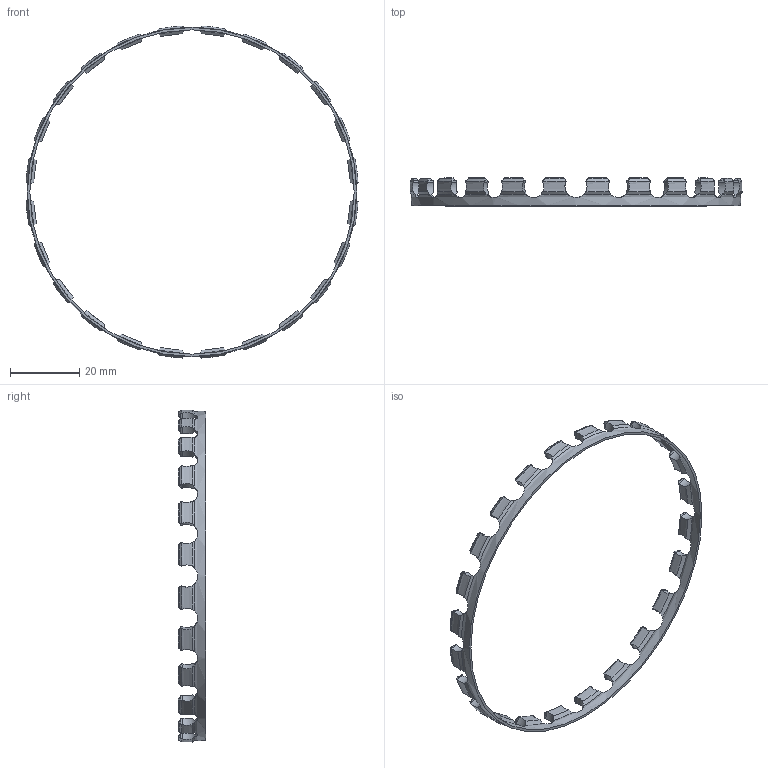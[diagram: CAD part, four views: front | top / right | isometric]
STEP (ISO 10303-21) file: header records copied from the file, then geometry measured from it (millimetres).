
FILE_DESCRIPTION(/* description */ (''),/* implementation_level */ '2;1');
FILE_NAME(/* name */ '\\192.168.3.8\kumagai\Develop\CAD\NakataOmni\DriveUnitR3\Ratainer_SB_LC.stp',/* time_stamp */ '2024-05-27T12:54:53+09:00',/* author */ ('kumagai'),/* organization */ (''),/* preprocessor_version */ 'ST-DEVELOPER v19',/* originating_system */ 'Autodesk Inventor 2023',/* authorisation */ '');
FILE_SCHEMA (('AUTOMOTIVE_DESIGN { 1 0 10303 214 3 1 1 }'));
Length unit declared in the file: millimetre
Products named in the file (1): Ratainer_IG_SB
Bounding box: 96.03 x 8 x 96.03 mm (x, y, z)
Volume: 1970 mm3; surface area: 4272.8 mm2
Topology: 1 solids, 1 shells, 339 faces, 1014 edges, 676 vertices
Faces by surface type: cylinder 170, cone 96, plane 73
Full cylindrical faces by diameter (mm): 93.8 x1, 95.2 x1
Entity records: 13667 total; most frequent: CARTESIAN_POINT 5148, ORIENTED_EDGE 2028, DIRECTION 1578, EDGE_CURVE 1014, AXIS2_PLACEMENT_3D 716, VERTEX_POINT 676, B_SPLINE_CURVE_WITH_KNOTS 434, EDGE_LOOP 340
